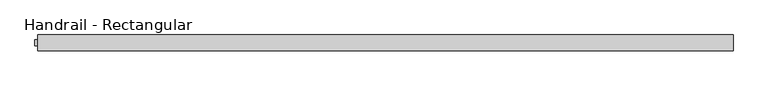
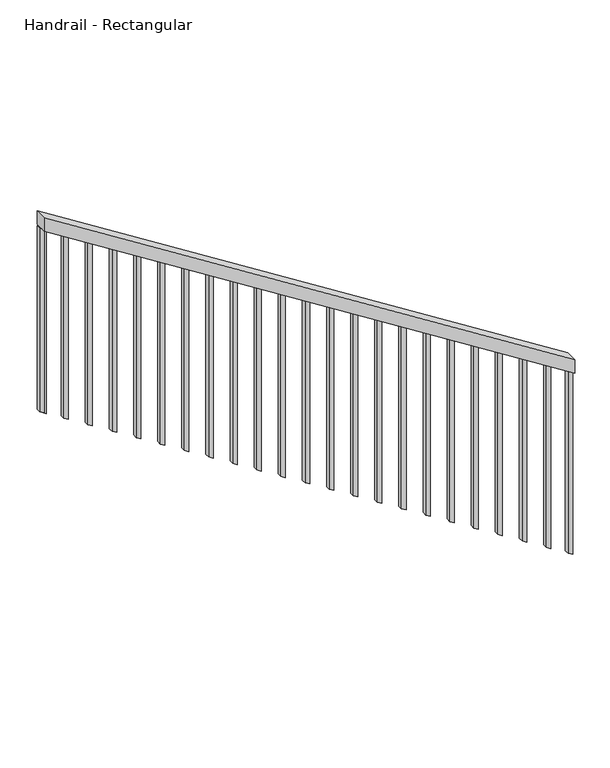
"""IFC4 building model written with IfcOpenShell, lengths in millimetres: railing geometry, Handrail - Rectangular."""

import ifcopenshell
import ifcopenshell.guid

model = None  # the IFC model being written
_history = None  # IfcOwnerHistory: only IFC2X3 demands one
_inside = {}  # id of a spatial element -> (the spatial element, [elements in it])
_under = {}  # id of a project, library or spatial element -> (it, [spatial elements below it])
_declared = {}  # id of a project -> (the project, [libraries it declares])
_typed = {}  # id of a type object -> (the type object, [elements of that type])
_made_of = {}  # id of a material, layer set ... -> (it, [elements and type objects made of it])


def new_model(schema):
    """Start an empty IFC model of exactly this schema.

    Asked for "IFC4X3", IfcOpenShell would pick the latest addendum, in which some entities
    have other attributes; the version numbers below select the first issue.
    IFC2X3 requires an IfcOwnerHistory on every rooted entity: one is made here for all.
    """
    global model, _history
    if schema == "IFC4X3":
        model = ifcopenshell.file(schema_version=(4, 3, 0, 0))
    else:
        model = ifcopenshell.file(schema=schema)
    _inside.clear()
    _under.clear()
    _declared.clear()
    _typed.clear()
    _made_of.clear()
    _history = None
    if model.schema == "IFC2X3":
        org = make("IfcOrganization", Name="unknown")
        user = make(
            "IfcPersonAndOrganization",
            ThePerson=make("IfcPerson", FamilyName="unknown"),
            TheOrganization=org,
        )
        app = make(
            "IfcApplication",
            ApplicationDeveloper=org,
            Version="unknown",
            ApplicationFullName="unknown",
            ApplicationIdentifier="unknown",
        )
        _history = make(
            "IfcOwnerHistory",
            OwningUser=user,
            OwningApplication=app,
            ChangeAction="ADDED",
            CreationDate=0,
        )
    return model


def make(cls, **values):
    """One entity of the class cls with the attributes given. An attribute that is None is left unset."""
    return model.create_entity(
        cls, **{name: value for name, value in values.items() if value is not None}
    )


def rooted(cls, **values):
    """An entity with a GlobalId (a new one), such as an element, a storey or a relation."""
    return make(cls, GlobalId=ifcopenshell.guid.new(), OwnerHistory=_history, **values)


def si_unit(unit_type, name, prefix=None):
    """IfcSIUnit, for example si_unit("LENGTHUNIT", "METRE", prefix="MILLI")."""
    return make("IfcSIUnit", UnitType=unit_type, Prefix=prefix, Name=name)


def assignment(units):
    """IfcUnitAssignment: the units of a project."""
    return None if units is None else make("IfcUnitAssignment", Units=units)


def point(xyz):
    """IfcCartesianPoint."""
    return None if xyz is None else make("IfcCartesianPoint", Coordinates=xyz)


def direction(xyz):
    """IfcDirection."""
    return None if xyz is None else make("IfcDirection", DirectionRatios=xyz)


def frame(location, z_axis=None, x_axis=None):
    """IfcAxis2Placement3D, a coordinate frame: its origin and axes. An axis left out is left unset."""
    return make(
        "IfcAxis2Placement3D",
        Location=point(location),
        Axis=direction(z_axis),
        RefDirection=direction(x_axis),
    )


def origin():
    """The frame at (0, 0, 0) with its axes left unset."""
    return frame((0.0, 0.0, 0.0))


def place(relative_to, where):
    """IfcLocalPlacement: puts the frame where relative to a parent placement (None: the world)."""
    return make(
        "IfcLocalPlacement", PlacementRelTo=relative_to, RelativePlacement=where
    )


def context(
    kind, dimensions, precision=None, world=None, true_north=None, identifier=None
):
    """IfcGeometricRepresentationContext, for example the 3D "Model" context."""
    return make(
        "IfcGeometricRepresentationContext",
        ContextIdentifier=identifier,
        ContextType=kind,
        CoordinateSpaceDimension=dimensions,
        Precision=precision,
        WorldCoordinateSystem=world,
        TrueNorth=true_north,
    )


def project(units=None, contexts=None):
    """IfcProject with its units and contexts."""
    return rooted(
        "IfcProject",
        Name="project",
        RepresentationContexts=contexts,
        UnitsInContext=assignment(units),
    )


def spatial(cls, under=None, at=None, **own):
    """A site, building, storey or space (cls), placed at a placement, below another one or the project."""
    s = rooted(cls, ObjectPlacement=at, **own)
    if under is not None:
        _under.setdefault(under.id(), (under, []))[1].append(s)
    return s


def polyline(points):
    """IfcPolyline through the points."""
    return make("IfcPolyline", Points=[point(p) for p in points])


def outline(outer, holes=None, kind="AREA"):
    """IfcArbitraryClosedProfileDef: a profile drawn as a closed curve; with holes, ...WithVoids."""
    if holes is None:
        return make("IfcArbitraryClosedProfileDef", ProfileType=kind, OuterCurve=outer)
    return make(
        "IfcArbitraryProfileDefWithVoids",
        ProfileType=kind,
        OuterCurve=outer,
        InnerCurves=holes,
    )


def extrude(swept, where, along, depth):
    """IfcExtrudedAreaSolid: the profile swept, set in the frame where, extruded along a direction by depth."""
    return make(
        "IfcExtrudedAreaSolid",
        SweptArea=swept,
        Position=where,
        ExtrudedDirection=direction(along),
        Depth=depth,
    )


def shape(context_of_items, identifier, shape_type, items):
    """IfcShapeRepresentation: the items that make up one representation, for example the "Body"."""
    return make(
        "IfcShapeRepresentation",
        ContextOfItems=context_of_items,
        RepresentationIdentifier=identifier,
        RepresentationType=shape_type,
        Items=items,
    )


def source(mapping_origin, context_of_items, identifier, shape_type, items):
    """IfcRepresentationMap: a shape defined once, which mapped items show again and again."""
    return make(
        "IfcRepresentationMap",
        MappingOrigin=mapping_origin,
        MappedRepresentation=shape(context_of_items, identifier, shape_type, items),
    )


def transform(
    local_origin,
    x_axis=None,
    y_axis=None,
    z_axis=None,
    scale=None,
    scale2=None,
    scale3=None,
    uniform=True,
):
    """IfcCartesianTransformationOperator3D, or its non-uniform kind. x_axis, y_axis, z_axis: its Axis1, 2, 3."""
    if uniform:
        return make(
            "IfcCartesianTransformationOperator3D",
            Axis1=direction(x_axis),
            Axis2=direction(y_axis),
            LocalOrigin=point(local_origin),
            Scale=scale,
            Axis3=direction(z_axis),
        )
    return make(
        "IfcCartesianTransformationOperator3DnonUniform",
        Axis1=direction(x_axis),
        Axis2=direction(y_axis),
        LocalOrigin=point(local_origin),
        Scale=scale,
        Axis3=direction(z_axis),
        Scale2=scale2,
        Scale3=scale3,
    )


def mapped(mapping_source, mapping_target):
    """IfcMappedItem: shows the shape of a source again, moved by a transform."""
    return make(
        "IfcMappedItem", MappingSource=mapping_source, MappingTarget=mapping_target
    )


def made_of(thing, what):
    """Note that an element or type object is made of a material, layer set ...; save() writes the relation."""
    if what is not None:
        _made_of.setdefault(what.id(), (what, []))[1].append(thing)
    return thing


def element(
    cls,
    number,
    at=None,
    inside=None,
    cuts=None,
    type_object=None,
    material=None,
    context=None,
    identifier="Body",
    shape_type=None,
    held_by="IfcProductDefinitionShape",
    body=None,
    shapes=None,
    **own,
):
    """One element of the class cls, such as IfcWall. Its Tag is "e" and its number.

    at: its placement. inside: the storey or other place that contains it. cuts: it is an
    opening in that element (IfcRelVoidsElement). A single representation is given by context,
    identifier, shape_type and body (its items); several are given by shapes. held_by: the class
    of the entity that holds the representations. save() writes the other relations.
    """
    e = rooted(cls, Tag="e%d" % number, ObjectPlacement=at, **own)
    if body is not None:
        shapes = [shape(context, identifier, shape_type, body)]
    if shapes is not None:
        e.Representation = make(held_by, Representations=shapes)
    if inside is not None:
        _inside.setdefault(inside.id(), (inside, []))[1].append(e)
    if cuts is not None:
        rooted(
            "IfcRelVoidsElement", RelatingBuildingElement=cuts, RelatedOpeningElement=e
        )
    if type_object is not None:
        _typed.setdefault(type_object.id(), (type_object, []))[1].append(e)
    return made_of(e, material)


def aggregate(whole, parts):
    """IfcRelAggregates: a whole, such as a stair, and the parts it consists of."""
    return rooted("IfcRelAggregates", RelatingObject=whole, RelatedObjects=parts)


def save(model, path):
    """Write the relations noted so far, then the file.

    IfcRelAggregates (storeys below a building ...), IfcRelContainedInSpatialStructure (elements
    in a storey), IfcRelDefinesByType, IfcRelAssociatesMaterial and IfcRelDeclares: one each for
    every whole, place, type object, material and project.
    """
    for whole, parts in _under.values():
        aggregate(whole, parts)
    for where, things in _inside.values():
        rooted(
            "IfcRelContainedInSpatialStructure",
            RelatedElements=things,
            RelatingStructure=where,
        )
    for kind, things in _typed.values():
        rooted("IfcRelDefinesByType", RelatedObjects=things, RelatingType=kind)
    for what, things in _made_of.values():
        rooted("IfcRelAssociatesMaterial", RelatedObjects=things, RelatingMaterial=what)
    for by, libraries in _declared.values():
        rooted("IfcRelDeclares", RelatingContext=by, RelatedDefinitions=libraries)
    model.write(path)


def handrail_rectangular_047e9d67(model_context):
    return source(origin(), model_context, "Body", "SweptSolid", [
        extrude(outline(polyline([(854.2701167, 47456.8606829), (914.4, 47456.8606829), (2330.2451613, 45221.1423478), (2270.115278, 45221.1423478), (854.2701167, 47456.8606829)])), frame((0.0, 27198.7599629, 0.0), z_axis=(0.0, 1.0, 0.0), x_axis=(0.0, 0.0, 1.0)), (0.0, 0.0, 1.0), 50.8),
        extrude(outline(polyline([(2275.8021657, 45212.1356829), (1459.2798654, 45212.1356829), (1447.2130032, 45231.1856829), (2263.7353035, 45231.1856829), (2275.8021657, 45212.1356829)])), frame((0.0, 27214.6349629, 0.0), z_axis=(0.0, 1.0, 0.0), x_axis=(0.0, 0.0, 1.0)), (0.0, 0.0, 1.0), 19.05),
        extrude(outline(polyline([(2211.4604881, 45313.7356829), (1394.9381878, 45313.7356829), (1382.8713256, 45332.7856829), (2199.3936259, 45332.7856829), (2211.4604881, 45313.7356829)])), frame((0.0, 27214.6349629, 0.0), z_axis=(0.0, 1.0, 0.0), x_axis=(0.0, 0.0, 1.0)), (0.0, 0.0, 1.0), 19.05),
        extrude(outline(polyline([(2147.1188104, 45415.3356829), (1330.5965101, 45415.3356829), (1318.529648, 45434.3856829), (2135.0519483, 45434.3856829), (2147.1188104, 45415.3356829)])), frame((0.0, 27214.6349629, 0.0), z_axis=(0.0, 1.0, 0.0), x_axis=(0.0, 0.0, 1.0)), (0.0, 0.0, 1.0), 19.05),
        extrude(outline(polyline([(2082.7771328, 45516.9356829), (1266.2548325, 45516.9356829), (1254.1879703, 45535.9856829), (2070.7102706, 45535.9856829), (2082.7771328, 45516.9356829)])), frame((0.0, 27214.6349629, 0.0), z_axis=(0.0, 1.0, 0.0), x_axis=(0.0, 0.0, 1.0)), (0.0, 0.0, 1.0), 19.05),
        extrude(outline(polyline([(2018.4354552, 45618.5356829), (1201.9131549, 45618.5356829), (1189.8462927, 45637.5856829), (2006.368593, 45637.5856829), (2018.4354552, 45618.5356829)])), frame((0.0, 27214.6349629, 0.0), z_axis=(0.0, 1.0, 0.0), x_axis=(0.0, 0.0, 1.0)), (0.0, 0.0, 1.0), 19.05),
        extrude(outline(polyline([(1954.0937775, 45720.1356829), (1137.5714772, 45720.1356829), (1125.5046151, 45739.1856829), (1942.0269154, 45739.1856829), (1954.0937775, 45720.1356829)])), frame((0.0, 27214.6349629, 0.0), z_axis=(0.0, 1.0, 0.0), x_axis=(0.0, 0.0, 1.0)), (0.0, 0.0, 1.0), 19.05),
        extrude(outline(polyline([(1889.7520999, 45821.7356829), (1073.2297996, 45821.7356829), (1061.1629374, 45840.7856829), (1877.6852377, 45840.7856829), (1889.7520999, 45821.7356829)])), frame((0.0, 27214.6349629, 0.0), z_axis=(0.0, 1.0, 0.0), x_axis=(0.0, 0.0, 1.0)), (0.0, 0.0, 1.0), 19.05),
        extrude(outline(polyline([(1825.4104223, 45923.3356829), (1008.888122, 45923.3356829), (996.8212598, 45942.3856829), (1813.3435601, 45942.3856829), (1825.4104223, 45923.3356829)])), frame((0.0, 27214.6349629, 0.0), z_axis=(0.0, 1.0, 0.0), x_axis=(0.0, 0.0, 1.0)), (0.0, 0.0, 1.0), 19.05),
        extrude(outline(polyline([(1761.0687446, 46024.9356829), (944.5464443, 46024.9356829), (932.4795822, 46043.9856829), (1749.0018825, 46043.9856829), (1761.0687446, 46024.9356829)])), frame((0.0, 27214.6349629, 0.0), z_axis=(0.0, 1.0, 0.0), x_axis=(0.0, 0.0, 1.0)), (0.0, 0.0, 1.0), 19.05),
        extrude(outline(polyline([(1696.727067, 46126.5356829), (880.2047667, 46126.5356829), (868.1379045, 46145.5856829), (1684.6602048, 46145.5856829), (1696.727067, 46126.5356829)])), frame((0.0, 27214.6349629, 0.0), z_axis=(0.0, 1.0, 0.0), x_axis=(0.0, 0.0, 1.0)), (0.0, 0.0, 1.0), 19.05),
        extrude(outline(polyline([(1632.3853894, 46228.1356829), (815.8630891, 46228.1356829), (803.7962269, 46247.1856829), (1620.3185272, 46247.1856829), (1632.3853894, 46228.1356829)])), frame((0.0, 27214.6349629, 0.0), z_axis=(0.0, 1.0, 0.0), x_axis=(0.0, 0.0, 1.0)), (0.0, 0.0, 1.0), 19.05),
        extrude(outline(polyline([(1568.0437118, 46329.7356829), (751.5214115, 46329.7356829), (739.4545493, 46348.7856829), (1555.9768496, 46348.7856829), (1568.0437118, 46329.7356829)])), frame((0.0, 27214.6349629, 0.0), z_axis=(0.0, 1.0, 0.0), x_axis=(0.0, 0.0, 1.0)), (0.0, 0.0, 1.0), 19.05),
        extrude(outline(polyline([(1503.7020341, 46431.3356829), (687.1797338, 46431.3356829), (675.1128717, 46450.3856829), (1491.635172, 46450.3856829), (1503.7020341, 46431.3356829)])), frame((0.0, 27214.6349629, 0.0), z_axis=(0.0, 1.0, 0.0), x_axis=(0.0, 0.0, 1.0)), (0.0, 0.0, 1.0), 19.05),
        extrude(outline(polyline([(1439.3603565, 46532.9356829), (622.8380562, 46532.9356829), (610.771194, 46551.9856829), (1427.2934943, 46551.9856829), (1439.3603565, 46532.9356829)])), frame((0.0, 27214.6349629, 0.0), z_axis=(0.0, 1.0, 0.0), x_axis=(0.0, 0.0, 1.0)), (0.0, 0.0, 1.0), 19.05),
        extrude(outline(polyline([(1375.0186789, 46634.5356829), (558.4963786, 46634.5356829), (546.4295164, 46653.5856829), (1362.9518167, 46653.5856829), (1375.0186789, 46634.5356829)])), frame((0.0, 27214.6349629, 0.0), z_axis=(0.0, 1.0, 0.0), x_axis=(0.0, 0.0, 1.0)), (0.0, 0.0, 1.0), 19.05),
        extrude(outline(polyline([(1310.6770012, 46736.1356829), (494.1547009, 46736.1356829), (482.0878388, 46755.1856829), (1298.6101391, 46755.1856829), (1310.6770012, 46736.1356829)])), frame((0.0, 27214.6349629, 0.0), z_axis=(0.0, 1.0, 0.0), x_axis=(0.0, 0.0, 1.0)), (0.0, 0.0, 1.0), 19.05),
        extrude(outline(polyline([(1246.3353236, 46837.7356829), (429.8130233, 46837.7356829), (417.7461611, 46856.7856829), (1234.2684614, 46856.7856829), (1246.3353236, 46837.7356829)])), frame((0.0, 27214.6349629, 0.0), z_axis=(0.0, 1.0, 0.0), x_axis=(0.0, 0.0, 1.0)), (0.0, 0.0, 1.0), 19.05),
        extrude(outline(polyline([(1181.993646, 46939.3356829), (365.4713457, 46939.3356829), (353.4044835, 46958.3856829), (1169.9267838, 46958.3856829), (1181.993646, 46939.3356829)])), frame((0.0, 27214.6349629, 0.0), z_axis=(0.0, 1.0, 0.0), x_axis=(0.0, 0.0, 1.0)), (0.0, 0.0, 1.0), 19.05),
        extrude(outline(polyline([(1117.6519683, 47040.9356829), (301.129668, 47040.9356829), (289.0628059, 47059.9856829), (1105.5851062, 47059.9856829), (1117.6519683, 47040.9356829)])), frame((0.0, 27214.6349629, 0.0), z_axis=(0.0, 1.0, 0.0), x_axis=(0.0, 0.0, 1.0)), (0.0, 0.0, 1.0), 19.05),
        extrude(outline(polyline([(1053.3102907, 47142.5356829), (236.7879904, 47142.5356829), (224.7211282, 47161.5856829), (1041.2434285, 47161.5856829), (1053.3102907, 47142.5356829)])), frame((0.0, 27214.6349629, 0.0), z_axis=(0.0, 1.0, 0.0), x_axis=(0.0, 0.0, 1.0)), (0.0, 0.0, 1.0), 19.05),
        extrude(outline(polyline([(988.9686131, 47244.1356829), (172.4463128, 47244.1356829), (160.3794506, 47263.1856829), (976.9017509, 47263.1856829), (988.9686131, 47244.1356829)])), frame((0.0, 27214.6349629, 0.0), z_axis=(0.0, 1.0, 0.0), x_axis=(0.0, 0.0, 1.0)), (0.0, 0.0, 1.0), 19.05),
        extrude(outline(polyline([(924.6269354, 47345.7356829), (108.1046351, 47345.7356829), (96.037773, 47364.7856829), (912.5600733, 47364.7856829), (924.6269354, 47345.7356829)])), frame((0.0, 27214.6349629, 0.0), z_axis=(0.0, 1.0, 0.0), x_axis=(0.0, 0.0, 1.0)), (0.0, 0.0, 1.0), 19.05),
        extrude(outline(polyline([(2270.0983868, 45221.1423478), (1453.5760865, 45221.1423478), (1441.5092244, 45240.1923478), (2258.0315247, 45240.1923478), (2270.0983868, 45221.1423478)])), frame((0.0, 27214.6349629, 0.0), z_axis=(0.0, 1.0, 0.0), x_axis=(0.0, 0.0, 1.0)), (0.0, 0.0, 1.0), 19.05),
        extrude(outline(polyline([(866.3172901, 47437.8106829), (49.7949898, 47437.8106829), (37.7281276, 47456.8606829), (854.2504279, 47456.8606829), (866.3172901, 47437.8106829)])), frame((0.0, 27214.6349629, 0.0), z_axis=(0.0, 1.0, 0.0), x_axis=(0.0, 0.0, 1.0)), (0.0, 0.0, 1.0), 19.05),
    ])


if __name__ == "__main__":
    model = new_model("IFC4")
    model_context = context("Model", 3, world=origin())
    ifc_project = project(units=[si_unit("LENGTHUNIT", "METRE", prefix="MILLI")], contexts=[model_context])
    site = spatial("IfcSite", under=ifc_project)
    building = spatial("IfcBuilding", under=site)
    placement = place(None, origin())
    handrail_rectangular_shape = handrail_rectangular_047e9d67(model_context)
    element("IfcRailing", 1, ObjectType="Handrail - Rectangular", at=placement, inside=building, context=model_context, shape_type="MappedRepresentation", body=[
        mapped(handrail_rectangular_shape, transform((0.0, 0.0, 0.0), x_axis=(1.0, 0.0, 0.0), y_axis=(0.0, 1.0, 0.0), z_axis=(0.0, 0.0, 1.0))),
    ])
    save(model, "model.ifc")
